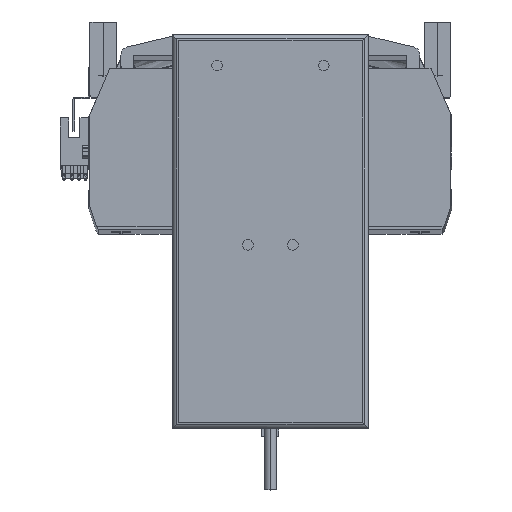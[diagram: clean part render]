
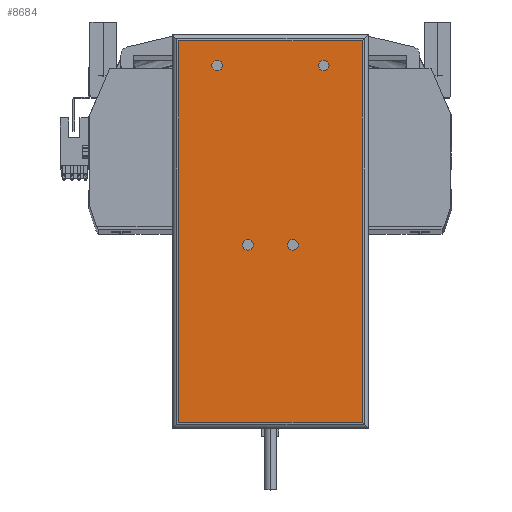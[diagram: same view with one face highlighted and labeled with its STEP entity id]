
A CAD part, top view. The second image highlights one B-rep face of the part: STEP entity #8684.
In plain terms, the highlighted planar face has unit normal (0, 0, 1) as drawn and (0, 0, -1) by its records, which use the part's own axes.
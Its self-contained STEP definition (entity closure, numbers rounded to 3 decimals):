
#1506 = EDGE_CURVE ( 'NONE', #48947, #45123, #41813, .T. ) ;
#2198 = EDGE_CURVE ( 'NONE', #47275, #14680, #17340, .T. ) ;
#2751 = CARTESIAN_POINT ( 'NONE',  ( -27.5, 77.75, 0. ) ) ;
#3181 = ORIENTED_EDGE ( 'NONE', *, *, #23359, .F. ) ;
#3617 = CARTESIAN_POINT ( 'NONE',  ( -25., 77.75, 0. ) ) ;
#3870 = ORIENTED_EDGE ( 'NONE', *, *, #26202, .T. ) ;
#4413 = AXIS2_PLACEMENT_3D ( 'NONE', #3617, #30762, #6865 ) ;
#4421 = VERTEX_POINT ( 'NONE', #45667 ) ;
#4477 = CIRCLE ( 'NONE', #42184, 2.5 ) ;
#4702 = CARTESIAN_POINT ( 'NONE',  ( 27.5, 77.75, 0. ) ) ;
#6865 = DIRECTION ( 'NONE',  ( -1., 0., 0. ) ) ;
#7241 = EDGE_CURVE ( 'NONE', #14680, #32735, #12014, .T. ) ;
#7911 = CARTESIAN_POINT ( 'NONE',  ( -43., -89.25, 0. ) ) ;
#7980 = CARTESIAN_POINT ( 'NONE',  ( 10.5, -6.25, 0. ) ) ;
#8063 = CIRCLE ( 'NONE', #38468, 2.5 ) ;
#8117 = ORIENTED_EDGE ( 'NONE', *, *, #7241, .T. ) ;
#8283 = DIRECTION ( 'NONE',  ( -1., 0., 0. ) ) ;
#8684 = ADVANCED_FACE ( 'NONE', ( #26559, #47923, #32677, #28990, #27187 ), #48270, .F. ) ;
#9280 = AXIS2_PLACEMENT_3D ( 'NONE', #31858, #24008, #8283 ) ;
#9306 = CARTESIAN_POINT ( 'NONE',  ( -46., -89.25, 0. ) ) ;
#9439 = AXIS2_PLACEMENT_3D ( 'NONE', #44583, #47647, #16456 ) ;
#9809 = CARTESIAN_POINT ( 'NONE',  ( -43., 89.25, 0. ) ) ;
#10148 = CARTESIAN_POINT ( 'NONE',  ( -10.5, -6.25, 0. ) ) ;
#10385 = CARTESIAN_POINT ( 'NONE',  ( -13., -6.25, 0. ) ) ;
#10556 = CARTESIAN_POINT ( 'NONE',  ( 13., -6.25, 0. ) ) ;
#10651 = EDGE_CURVE ( 'NONE', #31410, #32756, #30355, .T. ) ;
#11046 = VERTEX_POINT ( 'NONE', #30340 ) ;
#12014 = LINE ( 'NONE', #16799, #50453 ) ;
#12458 = VECTOR ( 'NONE', #32489, 1000. ) ;
#14243 = DIRECTION ( 'NONE',  ( 0., 0., -1. ) ) ;
#14502 = AXIS2_PLACEMENT_3D ( 'NONE', #40161, #36417, #32319 ) ;
#14680 = VERTEX_POINT ( 'NONE', #9809 ) ;
#16278 = DIRECTION ( 'NONE',  ( 0., 0., -1. ) ) ;
#16456 = DIRECTION ( 'NONE',  ( -1., 0., 0. ) ) ;
#16799 = CARTESIAN_POINT ( 'NONE',  ( -46., 89.25, 0. ) ) ;
#17340 = LINE ( 'NONE', #34496, #27197 ) ;
#18299 = CARTESIAN_POINT ( 'NONE',  ( 43., 89.25, 0. ) ) ;
#18607 = EDGE_CURVE ( 'NONE', #4421, #41408, #8063, .T. ) ;
#20186 = CARTESIAN_POINT ( 'NONE',  ( 43., -92.25, 0. ) ) ;
#20306 = EDGE_CURVE ( 'NONE', #38848, #11046, #23958, .T. ) ;
#20330 = DIRECTION ( 'NONE',  ( -1., 0., 0. ) ) ;
#20689 = DIRECTION ( 'NONE',  ( 1., 0., 0. ) ) ;
#21193 = EDGE_LOOP ( 'NONE', ( #30918, #26971 ) ) ;
#21600 = LINE ( 'NONE', #20186, #12458 ) ;
#22311 = ORIENTED_EDGE ( 'NONE', *, *, #39638, .F. ) ;
#22429 = DIRECTION ( 'NONE',  ( -1., 0., 0. ) ) ;
#23359 = EDGE_CURVE ( 'NONE', #32756, #31410, #28593, .T. ) ;
#23538 = DIRECTION ( 'NONE',  ( 0., 0., -1. ) ) ;
#23958 = CIRCLE ( 'NONE', #30814, 2.5 ) ;
#24008 = DIRECTION ( 'NONE',  ( 0., 0., -1. ) ) ;
#24019 = ORIENTED_EDGE ( 'NONE', *, *, #1506, .F. ) ;
#24723 = CARTESIAN_POINT ( 'NONE',  ( -22.5, 77.75, 0. ) ) ;
#24962 = CARTESIAN_POINT ( 'NONE',  ( 43., -89.25, 0. ) ) ;
#25812 = EDGE_CURVE ( 'NONE', #27769, #47275, #40614, .T. ) ;
#26202 = EDGE_CURVE ( 'NONE', #32735, #27769, #21600, .T. ) ;
#26412 = ORIENTED_EDGE ( 'NONE', *, *, #25812, .T. ) ;
#26559 = FACE_OUTER_BOUND ( 'NONE', #37411, .T. ) ;
#26971 = ORIENTED_EDGE ( 'NONE', *, *, #18607, .F. ) ;
#27187 = FACE_BOUND ( 'NONE', #36429, .T. ) ;
#27197 = VECTOR ( 'NONE', #41999, 1000. ) ;
#27769 = VERTEX_POINT ( 'NONE', #24962 ) ;
#28109 = DIRECTION ( 'NONE',  ( -1., 0., 0. ) ) ;
#28593 = CIRCLE ( 'NONE', #4413, 2.5 ) ;
#28990 = FACE_BOUND ( 'NONE', #40107, .T. ) ;
#30340 = CARTESIAN_POINT ( 'NONE',  ( 8., -6.25, 0. ) ) ;
#30355 = CIRCLE ( 'NONE', #14502, 2.5 ) ;
#30761 = ORIENTED_EDGE ( 'NONE', *, *, #20306, .F. ) ;
#30762 = DIRECTION ( 'NONE',  ( 0., 0., -1. ) ) ;
#30814 = AXIS2_PLACEMENT_3D ( 'NONE', #31797, #16278, #20330 ) ;
#30918 = ORIENTED_EDGE ( 'NONE', *, *, #45125, .F. ) ;
#31176 = CIRCLE ( 'NONE', #9280, 2.5 ) ;
#31410 = VERTEX_POINT ( 'NONE', #24723 ) ;
#31797 = CARTESIAN_POINT ( 'NONE',  ( 10.5, -6.25, 0. ) ) ;
#31858 = CARTESIAN_POINT ( 'NONE',  ( -10.5, -6.25, 0. ) ) ;
#32319 = DIRECTION ( 'NONE',  ( -1., 0., 0. ) ) ;
#32489 = DIRECTION ( 'NONE',  ( 0., -1., 0. ) ) ;
#32677 = FACE_BOUND ( 'NONE', #49139, .T. ) ;
#32735 = VERTEX_POINT ( 'NONE', #18299 ) ;
#32756 = VERTEX_POINT ( 'NONE', #2751 ) ;
#32763 = AXIS2_PLACEMENT_3D ( 'NONE', #36698, #40625, #48453 ) ;
#34496 = CARTESIAN_POINT ( 'NONE',  ( -43., -92.25, 0. ) ) ;
#35726 = VECTOR ( 'NONE', #44958, 1000. ) ;
#35992 = AXIS2_PLACEMENT_3D ( 'NONE', #42508, #43013, #50149 ) ;
#36381 = CARTESIAN_POINT ( 'NONE',  ( 22.5, 77.75, 0. ) ) ;
#36417 = DIRECTION ( 'NONE',  ( 0., 0., -1. ) ) ;
#36429 = EDGE_LOOP ( 'NONE', ( #24019, #22311 ) ) ;
#36698 = CARTESIAN_POINT ( 'NONE',  ( -46., -92.25, 0. ) ) ;
#37411 = EDGE_LOOP ( 'NONE', ( #3870, #26412, #43699, #8117 ) ) ;
#38468 = AXIS2_PLACEMENT_3D ( 'NONE', #10148, #14243, #22429 ) ;
#38848 = VERTEX_POINT ( 'NONE', #10556 ) ;
#39638 = EDGE_CURVE ( 'NONE', #45123, #48947, #41208, .T. ) ;
#40107 = EDGE_LOOP ( 'NONE', ( #3181, #42559 ) ) ;
#40161 = CARTESIAN_POINT ( 'NONE',  ( -25., 77.75, 0. ) ) ;
#40372 = EDGE_CURVE ( 'NONE', #11046, #38848, #4477, .T. ) ;
#40614 = LINE ( 'NONE', #9306, #35726 ) ;
#40625 = DIRECTION ( 'NONE',  ( 0., 0., 1. ) ) ;
#41208 = CIRCLE ( 'NONE', #9439, 2.5 ) ;
#41408 = VERTEX_POINT ( 'NONE', #10385 ) ;
#41813 = CIRCLE ( 'NONE', #35992, 2.5 ) ;
#41999 = DIRECTION ( 'NONE',  ( 0., 1., 0. ) ) ;
#42184 = AXIS2_PLACEMENT_3D ( 'NONE', #7980, #23538, #28109 ) ;
#42508 = CARTESIAN_POINT ( 'NONE',  ( 25., 77.75, 0. ) ) ;
#42559 = ORIENTED_EDGE ( 'NONE', *, *, #10651, .F. ) ;
#43013 = DIRECTION ( 'NONE',  ( 0., 0., -1. ) ) ;
#43699 = ORIENTED_EDGE ( 'NONE', *, *, #2198, .T. ) ;
#43737 = ORIENTED_EDGE ( 'NONE', *, *, #40372, .F. ) ;
#44583 = CARTESIAN_POINT ( 'NONE',  ( 25., 77.75, 0. ) ) ;
#44958 = DIRECTION ( 'NONE',  ( -1., 0., 0. ) ) ;
#45123 = VERTEX_POINT ( 'NONE', #4702 ) ;
#45125 = EDGE_CURVE ( 'NONE', #41408, #4421, #31176, .T. ) ;
#45667 = CARTESIAN_POINT ( 'NONE',  ( -8., -6.25, 0. ) ) ;
#47275 = VERTEX_POINT ( 'NONE', #7911 ) ;
#47647 = DIRECTION ( 'NONE',  ( 0., 0., -1. ) ) ;
#47923 = FACE_BOUND ( 'NONE', #21193, .T. ) ;
#48270 = PLANE ( 'NONE',  #32763 ) ;
#48453 = DIRECTION ( 'NONE',  ( 1., 0., 0. ) ) ;
#48947 = VERTEX_POINT ( 'NONE', #36381 ) ;
#49139 = EDGE_LOOP ( 'NONE', ( #43737, #30761 ) ) ;
#50149 = DIRECTION ( 'NONE',  ( -1., 0., 0. ) ) ;
#50453 = VECTOR ( 'NONE', #20689, 1000. ) ;
